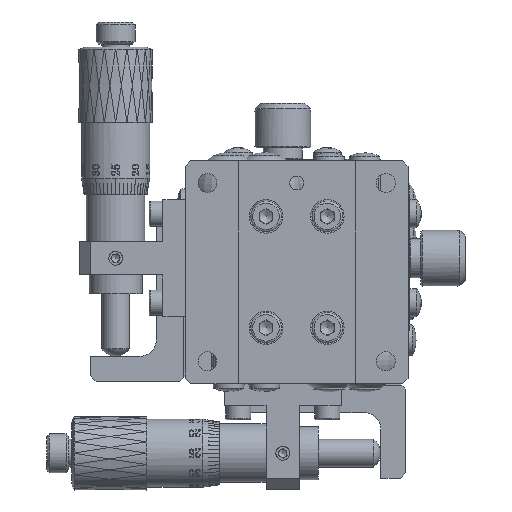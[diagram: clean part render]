
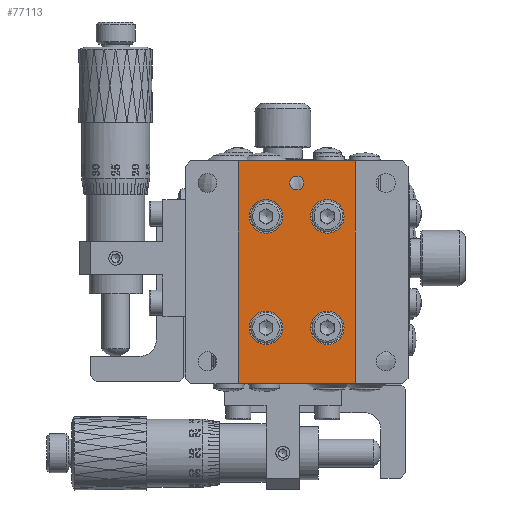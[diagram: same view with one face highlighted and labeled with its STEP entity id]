
A CAD part, front view. The second image highlights one B-rep face of the part: STEP entity #77113.
In plain terms, the highlighted planar face has unit normal (0, -1, 0).
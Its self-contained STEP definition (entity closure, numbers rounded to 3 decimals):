
#1251 = DIRECTION ( 'NONE',  ( 0., 0., 1. ) ) ;
#2003 = VECTOR ( 'NONE', #93360, 1000. ) ;
#2133 = DIRECTION ( 'NONE',  ( 0., 0., -1. ) ) ;
#2291 = ORIENTED_EDGE ( 'NONE', *, *, #61791, .F. ) ;
#3101 = CARTESIAN_POINT ( 'NONE',  ( 20., 1.5, 37.25 ) ) ;
#4734 = VERTEX_POINT ( 'NONE', #115925 ) ;
#5579 = EDGE_LOOP ( 'NONE', ( #45423 ) ) ;
#10176 = DIRECTION ( 'NONE',  ( -1., 0., 0. ) ) ;
#10444 = CIRCLE ( 'NONE', #135094, 3. ) ;
#10502 = CARTESIAN_POINT ( 'NONE',  ( 20., 1.5, 36. ) ) ;
#12310 = PLANE ( 'NONE',  #103237 ) ;
#15793 = CARTESIAN_POINT ( 'NONE',  ( 25.5, 1.5, 27. ) ) ;
#16058 = LINE ( 'NONE', #38879, #2003 ) ;
#17055 = CARTESIAN_POINT ( 'NONE',  ( 14.5, 1.5, 27. ) ) ;
#20285 = DIRECTION ( 'NONE',  ( 0., 0., 1. ) ) ;
#22642 = DIRECTION ( 'NONE',  ( 0., 1., 0. ) ) ;
#23862 = AXIS2_PLACEMENT_3D ( 'NONE', #111318, #45070, #123829 ) ;
#25726 = DIRECTION ( 'NONE',  ( 0., -1., 0. ) ) ;
#27314 = EDGE_CURVE ( 'NONE', #4734, #4734, #139057, .T. ) ;
#28941 = EDGE_CURVE ( 'NONE', #72459, #72459, #99234, .T. ) ;
#31756 = VERTEX_POINT ( 'NONE', #17055 ) ;
#32971 = FACE_BOUND ( 'NONE', #132339, .T. ) ;
#34402 = CARTESIAN_POINT ( 'NONE',  ( 9.5, 1.5, 0. ) ) ;
#35814 = ORIENTED_EDGE ( 'NONE', *, *, #27314, .F. ) ;
#35836 = ORIENTED_EDGE ( 'NONE', *, *, #107584, .F. ) ;
#38879 = CARTESIAN_POINT ( 'NONE',  ( 9.5, 1.5, -71.6 ) ) ;
#41501 = EDGE_CURVE ( 'NONE', #88346, #84355, #111400, .T. ) ;
#43001 = DIRECTION ( 'NONE',  ( -1., 0., 0. ) ) ;
#43102 = LINE ( 'NONE', #76928, #44050 ) ;
#43678 = DIRECTION ( 'NONE',  ( 0., -1., 0. ) ) ;
#44050 = VECTOR ( 'NONE', #20285, 1000. ) ;
#44150 = EDGE_LOOP ( 'NONE', ( #35814 ) ) ;
#45070 = DIRECTION ( 'NONE',  ( 0., -1., 0. ) ) ;
#45423 = ORIENTED_EDGE ( 'NONE', *, *, #54718, .F. ) ;
#45459 = CARTESIAN_POINT ( 'NONE',  ( 30.5, 1.5, -71.6 ) ) ;
#48299 = EDGE_LOOP ( 'NONE', ( #66406, #89959, #35836, #132495 ) ) ;
#48780 = VERTEX_POINT ( 'NONE', #3101 ) ;
#49539 = CARTESIAN_POINT ( 'NONE',  ( 9.5, 1.5, 40. ) ) ;
#51742 = ORIENTED_EDGE ( 'NONE', *, *, #28941, .F. ) ;
#52928 = CARTESIAN_POINT ( 'NONE',  ( 0., 1.5, 0. ) ) ;
#54365 = LINE ( 'NONE', #52928, #104518 ) ;
#54718 = EDGE_CURVE ( 'NONE', #48780, #48780, #101793, .T. ) ;
#60492 = CARTESIAN_POINT ( 'NONE',  ( 30.5, 1.5, 0. ) ) ;
#61791 = EDGE_CURVE ( 'NONE', #31756, #31756, #102078, .T. ) ;
#62828 = EDGE_CURVE ( 'NONE', #74469, #74469, #10444, .T. ) ;
#66406 = ORIENTED_EDGE ( 'NONE', *, *, #132996, .T. ) ;
#66575 = ORIENTED_EDGE ( 'NONE', *, *, #62828, .F. ) ;
#70040 = CARTESIAN_POINT ( 'NONE',  ( 30.5, 1.5, 40. ) ) ;
#72459 = VERTEX_POINT ( 'NONE', #15793 ) ;
#74469 = VERTEX_POINT ( 'NONE', #119376 ) ;
#76928 = CARTESIAN_POINT ( 'NONE',  ( 30.5, 1.5, -71.6 ) ) ;
#77113 = ADVANCED_FACE ( 'NONE', ( #77142, #32971, #77847, #134546, #100684, #113159 ), #12310, .F. ) ;
#77142 = FACE_BOUND ( 'NONE', #114960, .T. ) ;
#77847 = FACE_BOUND ( 'NONE', #44150, .T. ) ;
#77945 = EDGE_LOOP ( 'NONE', ( #2291 ) ) ;
#80868 = DIRECTION ( 'NONE',  ( 0., -1., 0. ) ) ;
#82403 = DIRECTION ( 'NONE',  ( 0., 0., -1. ) ) ;
#84355 = VERTEX_POINT ( 'NONE', #49539 ) ;
#88346 = VERTEX_POINT ( 'NONE', #70040 ) ;
#89959 = ORIENTED_EDGE ( 'NONE', *, *, #41501, .T. ) ;
#91380 = VERTEX_POINT ( 'NONE', #60492 ) ;
#92561 = EDGE_CURVE ( 'NONE', #91380, #106413, #54365, .T. ) ;
#93360 = DIRECTION ( 'NONE',  ( 0., 0., 1. ) ) ;
#99234 = CIRCLE ( 'NONE', #141603, 3. ) ;
#100684 = FACE_OUTER_BOUND ( 'NONE', #48299, .T. ) ;
#101521 = CARTESIAN_POINT ( 'NONE',  ( 14.5, 1.5, 30. ) ) ;
#101550 = DIRECTION ( 'NONE',  ( 0., -1., 0. ) ) ;
#101793 = CIRCLE ( 'NONE', #144140, 1.25 ) ;
#102078 = CIRCLE ( 'NONE', #133022, 3. ) ;
#103237 = AXIS2_PLACEMENT_3D ( 'NONE', #45459, #22642, #1251 ) ;
#104518 = VECTOR ( 'NONE', #10176, 1000. ) ;
#106413 = VERTEX_POINT ( 'NONE', #34402 ) ;
#107584 = EDGE_CURVE ( 'NONE', #106413, #84355, #16058, .T. ) ;
#108504 = CARTESIAN_POINT ( 'NONE',  ( 0., 1.5, 40. ) ) ;
#111318 = CARTESIAN_POINT ( 'NONE',  ( 14.5, 1.5, 10. ) ) ;
#111400 = LINE ( 'NONE', #108504, #130556 ) ;
#113159 = FACE_BOUND ( 'NONE', #77945, .T. ) ;
#114756 = DIRECTION ( 'NONE',  ( 0., 0., -1. ) ) ;
#114781 = CARTESIAN_POINT ( 'NONE',  ( 25.5, 1.5, 10. ) ) ;
#114960 = EDGE_LOOP ( 'NONE', ( #51742 ) ) ;
#115551 = CARTESIAN_POINT ( 'NONE',  ( 25.5, 1.5, 30. ) ) ;
#115925 = CARTESIAN_POINT ( 'NONE',  ( 14.5, 1.5, 7. ) ) ;
#119376 = CARTESIAN_POINT ( 'NONE',  ( 25.5, 1.5, 7. ) ) ;
#122429 = DIRECTION ( 'NONE',  ( 0., 0., 1. ) ) ;
#123829 = DIRECTION ( 'NONE',  ( 0., 0., -1. ) ) ;
#130556 = VECTOR ( 'NONE', #43001, 1000. ) ;
#132339 = EDGE_LOOP ( 'NONE', ( #66575 ) ) ;
#132495 = ORIENTED_EDGE ( 'NONE', *, *, #92561, .F. ) ;
#132996 = EDGE_CURVE ( 'NONE', #91380, #88346, #43102, .T. ) ;
#133022 = AXIS2_PLACEMENT_3D ( 'NONE', #101521, #80868, #114756 ) ;
#134546 = FACE_BOUND ( 'NONE', #5579, .T. ) ;
#135094 = AXIS2_PLACEMENT_3D ( 'NONE', #114781, #101550, #2133 ) ;
#139057 = CIRCLE ( 'NONE', #23862, 3. ) ;
#141603 = AXIS2_PLACEMENT_3D ( 'NONE', #115551, #25726, #82403 ) ;
#144140 = AXIS2_PLACEMENT_3D ( 'NONE', #10502, #43678, #122429 ) ;
